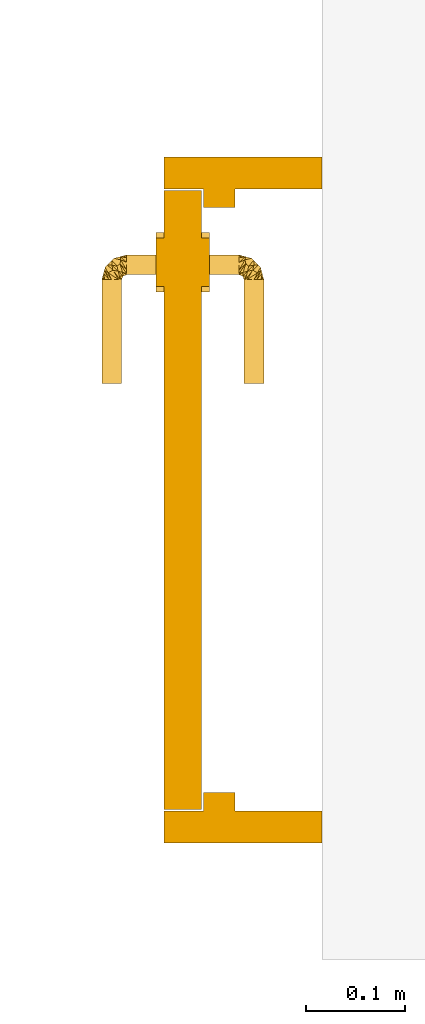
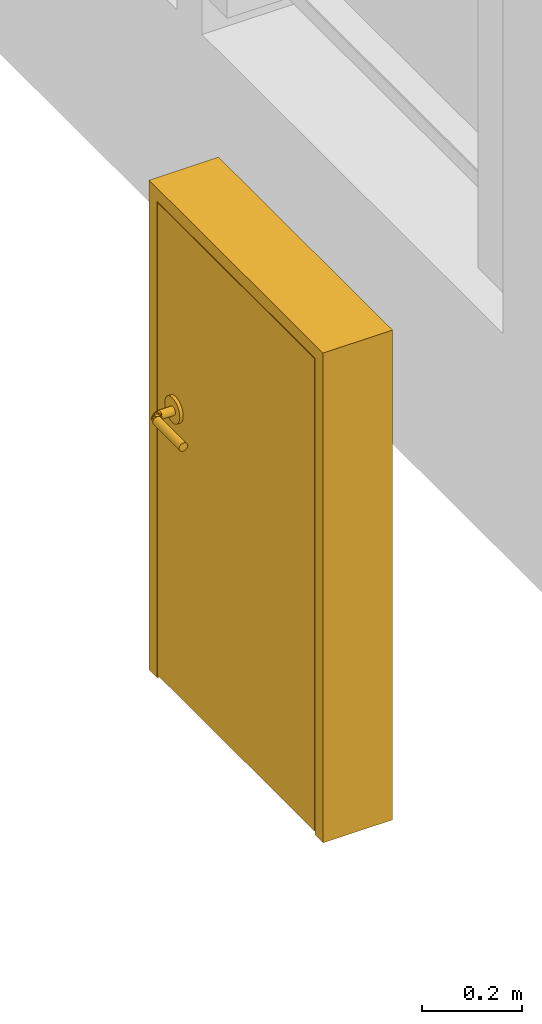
# One storey, part 32 of 33: 1 door.
"""IFC2X3 building model written with IfcOpenShell, lengths in millimetres."""

from ifc_helpers import new_model, entity, si_unit, converted_unit, derived_unit, direction, frame, origin, place, context, subcontext, project, spatial, faceted_brep, source, transform, mapped, material, material_list, type_object, type_shapes, element, save


model = new_model("IFC2X3")

# Units and contexts
model_context = context("Model", 3, precision=0.01, world=origin(), true_north=direction((6.12303176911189e-17, 1.0)))
body_context = subcontext(model_context, "Body", "Model", "MODEL_VIEW")
ifc_project = project(units=[si_unit("LENGTHUNIT", "METRE", prefix="MILLI"), si_unit("AREAUNIT", "SQUARE_METRE"), si_unit("VOLUMEUNIT", "CUBIC_METRE"), converted_unit("PLANEANGLEUNIT", "DEGREE", entity("IfcRatioMeasure", 0.0174532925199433), si_unit("PLANEANGLEUNIT", "RADIAN"), dimensions=[0, 0, 0, 0, 0, 0, 0]), si_unit("MASSUNIT", "GRAM", prefix="KILO"), derived_unit("MASSDENSITYUNIT", [(si_unit("MASSUNIT", "GRAM", prefix="KILO"), 1), (si_unit("LENGTHUNIT", "METRE"), -3)]), si_unit("TIMEUNIT", "SECOND"), si_unit("FREQUENCYUNIT", "HERTZ"), si_unit("THERMODYNAMICTEMPERATUREUNIT", "DEGREE_CELSIUS"), derived_unit("THERMALTRANSMITTANCEUNIT", [(si_unit("MASSUNIT", "GRAM", prefix="KILO"), 1), (si_unit("THERMODYNAMICTEMPERATUREUNIT", "KELVIN"), -1), (si_unit("TIMEUNIT", "SECOND"), -3)]), derived_unit("VOLUMETRICFLOWRATEUNIT", [(si_unit("LENGTHUNIT", "METRE"), 3), (si_unit("TIMEUNIT", "SECOND"), -1)]), si_unit("ELECTRICCURRENTUNIT", "AMPERE"), si_unit("ELECTRICVOLTAGEUNIT", "VOLT"), si_unit("POWERUNIT", "WATT"), si_unit("FORCEUNIT", "NEWTON", prefix="KILO"), si_unit("ILLUMINANCEUNIT", "LUX"), si_unit("LUMINOUSFLUXUNIT", "LUMEN"), si_unit("LUMINOUSINTENSITYUNIT", "CANDELA"), derived_unit("USERDEFINED", [(si_unit("MASSUNIT", "GRAM", prefix="KILO"), -1), (si_unit("LENGTHUNIT", "METRE"), -2), (si_unit("TIMEUNIT", "SECOND"), 3), (si_unit("LUMINOUSFLUXUNIT", "LUMEN"), 1)]), derived_unit("LINEARVELOCITYUNIT", [(si_unit("LENGTHUNIT", "METRE"), 1), (si_unit("TIMEUNIT", "SECOND"), -1)]), si_unit("PRESSUREUNIT", "PASCAL"), derived_unit("USERDEFINED", [(si_unit("LENGTHUNIT", "METRE"), -2), (si_unit("MASSUNIT", "GRAM", prefix="KILO"), 1), (si_unit("TIMEUNIT", "SECOND"), -2)])], contexts=[model_context])

# Site, building, storey
site_placement = place(None, origin())
site = spatial("IfcSite", under=ifc_project, at=site_placement, Name="Default", CompositionType="ELEMENT")
building_placement = place(site_placement, origin())
building = spatial("IfcBuilding", under=site, at=building_placement, CompositionType="ELEMENT")
storey_placement = place(building_placement, frame((0.0, 0.0, 4000.0)))
storey = spatial("IfcBuildingStorey", under=building, at=storey_placement, Name="2. KORRUS", CompositionType="ELEMENT", Elevation=4000.0)

# Door
ifc_material_1 = material(Name="Door - Handle")
ifc_material_2 = material(Name="Door - Panel")
ifc_material_3 = material(Name="Door - Frame/Mullion (1)")
ifc_material_list_1 = material_list([ifc_material_1, ifc_material_2, ifc_material_3])
ifc_material_list_2 = material_list([ifc_material_1, ifc_material_2, ifc_material_3])
door_style = type_object("IfcDoorStyle", Name="LU7-1_710x1200mm", ConstructionType="NOTDEFINED", OperationType="SINGLE_SWING_LEFT", ParameterTakesPrecedence=False, Sizeable=False, material=ifc_material_list_2)
shared_shape = source(origin(), body_context, "Body", "Brep", [
    faceted_brep([(600.071067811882, 114.0, 692.928932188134), (598.0, 114.0, 691.339745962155), (595.588190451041, 114.0, 690.340741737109), (593.0, 114.0, 690.0), (590.411809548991, 114.0, 690.340741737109), (588.0, 114.0, 691.339745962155), (585.928932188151, 114.0, 692.928932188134), (584.339745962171, 114.0, 695.0), (583.340741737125, 114.0, 697.411809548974), (583.0, 114.0, 700.0), (583.340741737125, 114.0, 702.588190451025), (584.339745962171, 114.0, 705.0), (585.92893218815, 114.0, 707.071067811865), (588.0, 114.0, 708.660254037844), (590.411809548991, 114.0, 709.65925826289), (593.0, 114.0, 710.0), (595.588190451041, 114.0, 709.65925826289), (598.0, 114.0, 708.660254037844), (600.071067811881, 114.0, 707.071067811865), (601.66025403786, 114.0, 705.0), (602.659258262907, 114.0, 702.588190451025), (603.0, 114.0, 700.0), (602.659258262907, 114.0, 697.411809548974), (601.66025403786, 114.0, 695.0), (602.659258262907, 84.0, 697.411809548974), (603.0, 84.0, 700.0), (601.66025403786, 84.0, 695.0), (600.071067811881, 84.0, 692.928932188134), (598.0, 84.0, 691.339745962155), (595.588190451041, 84.0, 690.340741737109), (593.0, 84.0, 690.0), (588.0, 84.0, 691.339745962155), (590.411809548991, 84.0, 690.340741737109), (585.928932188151, 84.0, 692.928932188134), (584.339745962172, 84.0, 695.0), (583.340741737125, 84.0, 697.411809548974), (583.0, 84.0, 700.0), (583.340741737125, 84.0, 702.588190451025), (584.339745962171, 84.0, 705.0), (585.92893218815, 84.0, 707.071067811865), (588.0, 84.0, 708.660254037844), (590.411809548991, 84.0, 709.65925826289), (593.0, 84.0, 710.0), (598.0, 84.0, 708.660254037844), (595.588190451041, 84.0, 709.65925826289), (600.071067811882, 84.0, 707.071067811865), (601.66025403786, 84.0, 705.0), (602.659258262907, 84.0, 702.588190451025), (602.573545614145, 82.408450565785, 700.0), (598.028337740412, 78.0398644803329, 691.923303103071), (601.294182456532, 77.6338022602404, 700.0), (594.035086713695, 77.416124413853, 690.276218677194), (591.752914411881, 74.4623288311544, 690.151922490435), (585.376369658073, 79.9815423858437, 692.487405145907), (600.472408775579, 74.5669011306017, 700.0), (599.650635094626, 71.500000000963, 700.0), (602.147091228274, 80.8169011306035, 700.0), (592.920509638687, 69.32823813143, 691.944762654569), (587.53767189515, 70.2470849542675, 690.151922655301), (586.501282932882, 75.4987174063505, 690.4535208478), (590.500000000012, 62.3493649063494, 700.0), (585.010617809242, 65.32962368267, 691.307206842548), (578.0, 79.0, 700.0), (581.535533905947, 80.4644660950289, 700.0), (582.018457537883, 76.6236306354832, 692.487405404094), (578.0, 78.6592582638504, 697.411809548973), (578.0, 77.6602540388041, 695.0), (587.433098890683, 61.5275912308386, 700.0), (584.366197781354, 60.7058175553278, 700.0), (578.0, 66.4118095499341, 690.340741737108), (578.0, 76.0710678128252, 692.928932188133), (578.0, 74.0, 691.339745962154), (597.362976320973, 69.2123412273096, 700.0), (592.787658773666, 64.6370236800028, 700.0), (578.0, 64.0, 691.339745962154), (578.0, 69.0, 690.0), (581.183098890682, 59.8529087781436, 700.0), (578.0, 61.9289321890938, 692.928932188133), (578.0, 59.3407417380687, 697.411809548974), (579.591549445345, 59.4264543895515, 700.0), (578.0, 59.0, 700.0), (595.075317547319, 66.9246824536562, 700.0), (578.0, 60.3397459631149, 695.0), (578.0, 71.5881904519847, 690.340741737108), (598.028337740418, 78.0398644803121, 708.076696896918), (591.752914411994, 74.4623288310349, 709.848077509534), (585.376369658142, 79.9815423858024, 707.51259485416), (586.501282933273, 75.4987174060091, 709.546479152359), (582.018457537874, 76.6236306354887, 707.512594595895), (594.035086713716, 77.4161244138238, 709.723781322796), (578.0, 77.6602540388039, 705.0), (587.53767189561, 70.2470849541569, 709.848077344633), (592.671762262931, 69.0794906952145, 708.055237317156), (578.0, 78.6592582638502, 702.588190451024), (585.010617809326, 65.3296236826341, 708.692793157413), (578.0, 69.0, 710.0), (578.0, 66.4118095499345, 709.659258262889), (578.0, 76.071067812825, 707.071067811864), (578.0, 61.9289321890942, 707.071067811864), (578.0, 71.5881904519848, 709.659258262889), (578.0, 74.0, 708.660254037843), (578.0, 60.3397459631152, 705.0), (578.0, 64.0, 708.660254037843), (578.0, 59.3407417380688, 702.588190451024), (473.0, 66.4118095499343, 690.340741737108), (473.0, 64.0, 691.339745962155), (473.0, 61.928932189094, 692.928932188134), (473.0, 60.3397459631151, 695.0), (473.0, 59.3407417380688, 697.411809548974), (473.0, 59.0, 700.0), (473.0, 59.3407417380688, 702.588190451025), (473.0, 60.3397459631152, 705.0), (473.0, 61.9289321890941, 707.071067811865), (473.0, 64.0, 708.660254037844), (473.0, 66.4118095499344, 709.65925826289), (473.0, 69.0, 710.0), (473.0, 71.5881904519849, 709.65925826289), (473.0, 74.0, 708.660254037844), (473.0, 76.0710678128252, 707.071067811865), (473.0, 77.6602540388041, 705.0), (473.0, 78.6592582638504, 702.588190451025), (473.0, 79.0, 700.0), (473.0, 78.6592582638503, 697.411809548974), (473.0, 77.660254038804, 695.0), (473.0, 76.0710678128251, 692.928932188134), (473.0, 74.0, 691.339745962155), (473.0, 71.5881904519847, 690.340741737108), (473.0, 69.0, 690.0)], [[[0, 1, 2, 3, 4, 5, 6, 7, 8, 9, 10, 11, 12, 13, 14, 15, 16, 17, 18, 19, 20, 21, 22, 23]], [[24, 22, 21, 25]], [[26, 23, 22, 24]], [[0, 27, 28, 1]], [[26, 27, 0, 23]], [[1, 28, 29, 2]], [[2, 29, 30, 3]], [[31, 5, 4, 32]], [[33, 6, 5, 31]], [[7, 34, 35, 8]], [[33, 34, 7, 6]], [[8, 35, 36, 9]], [[4, 3, 30, 32]], [[37, 10, 9, 36]], [[38, 11, 10, 37]], [[12, 39, 40, 13]], [[38, 39, 12, 11]], [[13, 40, 41, 14]], [[14, 41, 42, 15]], [[43, 17, 16, 44]], [[45, 18, 17, 43]], [[19, 46, 47, 20]], [[45, 46, 19, 18]], [[20, 47, 25, 21]], [[16, 15, 42, 44]], [[24, 48, 26]], [[49, 29, 50]], [[51, 52, 53]], [[50, 54, 55, 49]], [[50, 28, 27]], [[26, 56, 27]], [[28, 50, 29]], [[55, 51, 49]], [[49, 31, 32]], [[57, 58, 59]], [[60, 61, 58]], [[49, 30, 29]], [[49, 32, 30]], [[62, 63, 64]], [[31, 49, 51]], [[65, 64, 66]], [[67, 68, 69]], [[24, 25, 48]], [[51, 53, 34]], [[51, 33, 31]], [[52, 57, 59]], [[70, 61, 71]], [[63, 53, 59]], [[52, 72, 57]], [[57, 73, 58]], [[68, 74, 69]], [[53, 52, 59]], [[67, 75, 61]], [[69, 75, 67]], [[76, 77, 68]], [[60, 58, 73]], [[68, 77, 74]], [[61, 60, 67]], [[78, 79, 80]], [[58, 64, 59]], [[51, 72, 52]], [[50, 27, 56]], [[53, 36, 35]], [[81, 73, 57, 72]], [[66, 64, 58]], [[76, 82, 77]], [[65, 62, 64]], [[82, 79, 78]], [[61, 70, 58]], [[48, 56, 26]], [[70, 66, 58]], [[76, 79, 82]], [[71, 61, 83]], [[75, 83, 61]], [[34, 33, 51]], [[63, 59, 64]], [[35, 34, 53]], [[72, 51, 55]], [[63, 36, 53]], [[84, 55, 54, 50]], [[85, 86, 87]], [[63, 62, 88]], [[89, 39, 38]], [[85, 89, 86]], [[90, 91, 88]], [[38, 86, 89]], [[92, 85, 87]], [[37, 86, 38]], [[63, 88, 87]], [[92, 87, 91]], [[88, 62, 93]], [[48, 25, 47]], [[60, 91, 94]], [[67, 60, 94]], [[45, 50, 56]], [[42, 84, 44]], [[91, 60, 73]], [[50, 45, 43]], [[43, 44, 50]], [[89, 72, 55]], [[95, 96, 67]], [[44, 84, 50]], [[87, 88, 91]], [[63, 87, 86]], [[90, 88, 93]], [[91, 90, 97]], [[68, 98, 76]], [[73, 92, 91]], [[37, 36, 86]], [[56, 46, 45]], [[99, 94, 100]], [[56, 48, 46]], [[79, 76, 101]], [[94, 97, 100]], [[46, 48, 47]], [[99, 95, 94]], [[92, 72, 85]], [[81, 72, 92, 73]], [[102, 98, 68]], [[68, 96, 102]], [[40, 84, 41]], [[67, 96, 68]], [[101, 103, 79]], [[89, 85, 72]], [[95, 67, 94]], [[84, 42, 41]], [[97, 94, 91]], [[101, 76, 98]], [[103, 80, 79]], [[55, 84, 89]], [[40, 39, 89]], [[36, 63, 86]], [[40, 89, 84]], [[104, 105, 106, 107, 108, 109, 110, 111, 112, 113, 114, 115, 116, 117, 118, 119, 120, 121, 122, 123, 124, 125, 126, 127]], [[108, 78, 80, 109]], [[107, 82, 78, 108]], [[105, 74, 77, 106]], [[106, 77, 82, 107]], [[104, 69, 74, 105]], [[69, 104, 127, 75]], [[125, 124, 70, 71]], [[126, 125, 71, 83]], [[122, 121, 62, 65]], [[123, 122, 65, 66]], [[124, 123, 66, 70]], [[83, 75, 127, 126]], [[120, 93, 62, 121]], [[119, 90, 93, 120]], [[97, 118, 117, 100]], [[119, 118, 97, 90]], [[100, 117, 116, 99]], [[99, 116, 115, 95]], [[113, 102, 96, 114]], [[112, 98, 102, 113]], [[101, 111, 110, 103]], [[98, 112, 111, 101]], [[103, 110, 109, 80]], [[96, 95, 115, 114]]]),
    faceted_brep([(587.735428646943, 114.0, 728.977774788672), (580.500000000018, 114.0, 725.980762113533), (574.286796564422, 114.0, 721.213203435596), (569.519237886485, 114.0, 715.0), (566.522225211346, 114.0, 707.764571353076), (565.500000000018, 114.0, 700.0), (566.522225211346, 114.0, 692.235428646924), (569.519237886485, 114.0, 685.0), (574.286796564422, 114.0, 678.786796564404), (580.500000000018, 114.0, 674.019237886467), (587.735428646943, 114.0, 671.022225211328), (595.500000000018, 114.0, 670.0), (603.264571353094, 114.0, 671.022225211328), (610.500000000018, 114.0, 674.019237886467), (616.713203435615, 114.0, 678.786796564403), (621.480762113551, 114.0, 685.0), (624.47777478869, 114.0, 692.235428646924), (625.500000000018, 114.0, 700.0), (624.47777478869, 114.0, 707.764571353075), (621.480762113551, 114.0, 715.0), (616.713203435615, 114.0, 721.213203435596), (610.500000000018, 114.0, 725.980762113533), (603.264571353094, 114.0, 728.977774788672), (595.500000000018, 114.0, 730.0), (595.500000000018, 122.0, 670.0), (587.735428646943, 122.0, 671.022225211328), (580.500000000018, 122.0, 674.019237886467), (574.286796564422, 122.0, 678.786796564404), (569.519237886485, 122.0, 685.0), (566.522225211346, 122.0, 692.235428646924), (565.500000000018, 122.0, 700.0), (566.522225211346, 122.0, 707.764571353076), (569.519237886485, 122.0, 715.0), (574.286796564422, 122.0, 721.213203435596), (580.500000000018, 122.0, 725.980762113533), (587.735428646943, 122.0, 728.977774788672), (595.500000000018, 122.0, 730.0), (603.264571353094, 122.0, 728.977774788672), (610.500000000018, 122.0, 725.980762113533), (616.713203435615, 122.0, 721.213203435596), (621.480762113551, 122.0, 715.0), (624.47777478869, 122.0, 707.764571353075), (625.500000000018, 122.0, 700.0), (624.47777478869, 122.0, 692.235428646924), (621.480762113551, 122.0, 685.0), (616.713203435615, 122.0, 678.786796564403), (610.500000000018, 122.0, 674.019237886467), (603.264571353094, 122.0, 671.022225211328)], [[[0, 1, 2, 3, 4, 5, 6, 7, 8, 9, 10, 11, 12, 13, 14, 15, 16, 17, 18, 19, 20, 21, 22, 23]], [[24, 25, 26, 27, 28, 29, 30, 31, 32, 33, 34, 35, 36, 37, 38, 39, 40, 41, 42, 43, 44, 45, 46, 47]], [[41, 18, 17, 42]], [[40, 19, 18, 41]], [[21, 20, 39, 38]], [[40, 39, 20, 19]], [[22, 21, 38, 37]], [[23, 22, 37, 36]], [[35, 0, 23, 36]], [[34, 1, 0, 35]], [[3, 2, 33, 32]], [[34, 33, 2, 1]], [[4, 3, 32, 31]], [[5, 4, 31, 30]], [[29, 6, 5, 30]], [[28, 7, 6, 29]], [[9, 8, 27, 26]], [[28, 27, 8, 7]], [[10, 9, 26, 25]], [[11, 10, 25, 24]], [[47, 12, 11, 24]], [[46, 13, 12, 47]], [[15, 14, 45, 44]], [[46, 45, 14, 13]], [[16, 15, 44, 43]], [[17, 16, 43, 42]]]),
    faceted_brep([(595.588190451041, 168.0, 690.340741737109), (598.0, 168.0, 691.339745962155), (600.071067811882, 168.0, 692.928932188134), (601.66025403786, 168.0, 695.0), (602.659258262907, 168.0, 697.411809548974), (603.0, 168.0, 700.0), (602.659258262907, 168.0, 702.588190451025), (601.66025403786, 168.0, 705.0), (600.071067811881, 168.0, 707.071067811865), (598.0, 168.0, 708.660254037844), (595.588190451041, 168.0, 709.65925826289), (593.0, 168.0, 710.0), (590.411809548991, 168.0, 709.65925826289), (588.0, 168.0, 708.660254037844), (585.92893218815, 168.0, 707.071067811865), (584.339745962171, 168.0, 705.0), (583.340741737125, 168.0, 702.588190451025), (583.0, 168.0, 700.0), (583.340741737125, 168.0, 697.411809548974), (584.339745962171, 168.0, 695.0), (585.928932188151, 168.0, 692.928932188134), (588.0, 168.0, 691.339745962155), (590.411809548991, 168.0, 690.340741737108), (593.0, 168.0, 690.0), (603.0, 198.0, 700.0), (602.659258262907, 198.0, 697.411809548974), (601.66025403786, 198.0, 695.0), (598.0, 198.0, 691.339745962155), (600.071067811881, 198.0, 692.928932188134), (595.588190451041, 198.0, 690.340741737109), (593.0, 198.0, 690.0), (590.411809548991, 198.0, 690.340741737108), (588.0, 198.0, 691.339745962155), (585.928932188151, 198.0, 692.928932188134), (583.340741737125, 198.0, 697.411809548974), (584.339745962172, 198.0, 695.0), (583.0, 198.0, 700.0), (583.340741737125, 198.0, 702.588190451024), (584.339745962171, 198.0, 705.0), (588.0, 198.0, 708.660254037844), (585.92893218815, 198.0, 707.071067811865), (590.411809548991, 198.0, 709.65925826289), (593.0, 198.0, 710.0), (595.588190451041, 198.0, 709.65925826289), (598.0, 198.0, 708.660254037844), (600.071067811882, 198.0, 707.071067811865), (602.659258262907, 198.0, 702.588190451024), (601.66025403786, 198.0, 705.0), (602.573545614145, 199.59154943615, 700.0), (601.294182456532, 204.366197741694, 700.0), (598.028337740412, 203.960135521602, 691.923303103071), (585.376369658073, 202.018457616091, 692.487405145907), (591.752914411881, 207.53767117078, 690.151922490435), (594.035086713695, 204.583875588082, 690.276218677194), (599.650635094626, 210.500000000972, 700.0), (600.472408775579, 207.433098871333, 700.0), (602.147091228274, 201.183098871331, 700.0), (586.501282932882, 206.501282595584, 690.4535208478), (587.53767189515, 211.752915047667, 690.151922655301), (592.920509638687, 212.671761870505, 691.944762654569), (585.010617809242, 216.670376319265, 691.307206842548), (590.500000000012, 219.650635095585, 700.0), (582.018457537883, 205.376369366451, 692.487405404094), (581.535533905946, 201.535533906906, 700.0), (578.0, 203.0, 700.0), (578.0, 204.33974596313, 695.0), (578.0, 203.340741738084, 697.411809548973), (578.0, 215.588190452, 690.340741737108), (584.366197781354, 221.294182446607, 700.0), (587.433098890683, 220.472408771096, 700.0), (578.0, 222.659258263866, 697.411809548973), (579.591549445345, 222.573545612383, 700.0), (578.0, 221.66025403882, 695.0), (578.0, 208.0, 691.339745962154), (578.0, 205.928932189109, 692.928932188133), (597.362976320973, 212.787658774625, 700.0), (592.787658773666, 217.362976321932, 700.0), (578.0, 218.0, 691.339745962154), (578.0, 213.0, 690.0), (578.0, 220.071067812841, 692.928932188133), (581.183098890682, 222.147091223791, 700.0), (578.0, 223.0, 700.0), (595.075317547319, 215.075317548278, 700.0), (578.0, 210.41180954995, 690.340741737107), (598.028337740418, 203.960135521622, 708.076696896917), (586.501282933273, 206.501282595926, 709.546479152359), (585.376369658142, 202.018457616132, 707.51259485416), (591.752914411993, 207.5376711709, 709.848077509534), (582.018457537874, 205.376369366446, 707.512594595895), (594.035086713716, 204.583875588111, 709.723781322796), (587.53767189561, 211.752915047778, 709.848077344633), (578.0, 204.339745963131, 705.0), (592.671762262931, 212.92050930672, 708.055237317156), (578.0, 203.340741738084, 702.588190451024), (585.010617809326, 216.6703763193, 708.692793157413), (578.0, 215.588190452, 709.659258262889), (578.0, 213.0, 710.0), (578.0, 205.92893218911, 707.071067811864), (578.0, 220.07106781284, 707.071067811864), (578.0, 208.0, 708.660254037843), (578.0, 210.41180954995, 709.659258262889), (578.0, 221.660254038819, 705.0), (578.0, 222.659258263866, 702.588190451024), (578.0, 218.0, 708.660254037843), (473.0, 205.92893218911, 692.928932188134), (473.0, 204.339745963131, 695.0), (473.0, 203.340741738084, 697.411809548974), (473.0, 203.0, 700.0), (473.0, 203.340741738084, 702.588190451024), (473.0, 204.339745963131, 705.0), (473.0, 205.928932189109, 707.071067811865), (473.0, 208.0, 708.660254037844), (473.0, 210.41180954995, 709.65925826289), (473.0, 213.0, 710.0), (473.0, 215.588190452, 709.65925826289), (473.0, 218.0, 708.660254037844), (473.0, 220.07106781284, 707.071067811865), (473.0, 221.660254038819, 705.0), (473.0, 222.659258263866, 702.588190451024), (473.0, 223.0, 700.0), (473.0, 222.659258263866, 697.411809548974), (473.0, 221.66025403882, 695.0), (473.0, 220.071067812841, 692.928932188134), (473.0, 218.0, 691.339745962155), (473.0, 215.588190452, 690.340741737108), (473.0, 213.0, 690.0), (473.0, 210.41180954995, 690.340741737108), (473.0, 208.0, 691.339745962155)], [[[0, 1, 2, 3, 4, 5, 6, 7, 8, 9, 10, 11, 12, 13, 14, 15, 16, 17, 18, 19, 20, 21, 22, 23]], [[24, 5, 4, 25]], [[25, 4, 3, 26]], [[27, 28, 2, 1]], [[3, 2, 28, 26]], [[29, 27, 1, 0]], [[23, 30, 29, 0]], [[31, 22, 21, 32]], [[32, 21, 20, 33]], [[34, 35, 19, 18]], [[20, 19, 35, 33]], [[36, 34, 18, 17]], [[31, 30, 23, 22]], [[36, 17, 16, 37]], [[37, 16, 15, 38]], [[39, 40, 14, 13]], [[15, 14, 40, 38]], [[41, 39, 13, 12]], [[11, 42, 41, 12]], [[43, 10, 9, 44]], [[44, 9, 8, 45]], [[46, 47, 7, 6]], [[8, 7, 47, 45]], [[24, 46, 6, 5]], [[43, 42, 11, 10]], [[26, 48, 25]], [[49, 29, 50]], [[51, 52, 53]], [[50, 54, 55, 49]], [[28, 27, 49]], [[28, 56, 26]], [[29, 49, 27]], [[50, 53, 54]], [[31, 32, 50]], [[57, 58, 59]], [[58, 60, 61]], [[29, 30, 50]], [[30, 31, 50]], [[62, 63, 64]], [[53, 50, 32]], [[65, 62, 66]], [[67, 68, 69]], [[70, 71, 72]], [[35, 51, 53]], [[32, 33, 53]], [[57, 59, 52]], [[73, 60, 74]], [[57, 51, 63]], [[59, 75, 52]], [[58, 76, 59]], [[67, 77, 68]], [[57, 52, 51]], [[60, 78, 69]], [[69, 78, 67]], [[68, 79, 80]], [[76, 58, 61]], [[77, 79, 68]], [[69, 61, 60]], [[81, 71, 70]], [[57, 62, 58]], [[52, 75, 53]], [[79, 72, 80]], [[34, 36, 51]], [[59, 76, 82, 75]], [[58, 62, 65]], [[56, 28, 49]], [[62, 64, 66]], [[48, 24, 25]], [[58, 74, 60]], [[72, 71, 80]], [[58, 65, 74]], [[26, 56, 48]], [[83, 60, 73]], [[60, 83, 78]], [[53, 33, 35]], [[62, 57, 63]], [[51, 35, 34]], [[54, 53, 75]], [[51, 36, 63]], [[49, 55, 54, 84]], [[85, 86, 87]], [[88, 64, 63]], [[38, 40, 89]], [[86, 89, 87]], [[88, 90, 91]], [[89, 86, 38]], [[85, 87, 92]], [[38, 86, 37]], [[85, 88, 63]], [[90, 85, 92]], [[93, 64, 88]], [[46, 24, 48]], [[94, 90, 61]], [[94, 61, 69]], [[56, 49, 45]], [[43, 84, 42]], [[76, 61, 90]], [[44, 45, 49]], [[49, 43, 44]], [[54, 75, 89]], [[69, 95, 96]], [[49, 84, 43]], [[90, 88, 85]], [[86, 85, 63]], [[93, 88, 91]], [[97, 91, 90]], [[45, 47, 56]], [[90, 92, 76]], [[86, 36, 37]], [[80, 98, 68]], [[99, 94, 100]], [[101, 80, 71]], [[47, 48, 56]], [[99, 97, 94]], [[71, 81, 102]], [[94, 96, 100]], [[87, 75, 92]], [[92, 75, 82, 76]], [[68, 98, 103]], [[103, 95, 68]], [[41, 84, 39]], [[68, 95, 69]], [[71, 102, 101]], [[75, 87, 89]], [[94, 69, 96]], [[41, 42, 84]], [[90, 94, 97]], [[98, 80, 101]], [[46, 48, 47]], [[89, 84, 54]], [[89, 40, 39]], [[86, 63, 36]], [[84, 89, 39]], [[104, 105, 106, 107, 108, 109, 110, 111, 112, 113, 114, 115, 116, 117, 118, 119, 120, 121, 122, 123, 124, 125, 126, 127]], [[119, 81, 70, 120]], [[120, 70, 72, 121]], [[122, 79, 77, 123]], [[121, 72, 79, 122]], [[123, 77, 67, 124]], [[78, 125, 124, 67]], [[73, 74, 104, 127]], [[83, 73, 127, 126]], [[66, 64, 107, 106]], [[65, 66, 106, 105]], [[74, 65, 105, 104]], [[126, 125, 78, 83]], [[107, 64, 93, 108]], [[108, 93, 91, 109]], [[111, 110, 97, 99]], [[91, 97, 110, 109]], [[112, 111, 99, 100]], [[96, 113, 112, 100]], [[114, 95, 103, 115]], [[115, 103, 98, 116]], [[118, 117, 101, 102]], [[117, 116, 98, 101]], [[119, 118, 102, 81]], [[114, 113, 96, 95]]]),
    faceted_brep([(574.286796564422, 168.0, 721.213203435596), (580.500000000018, 168.0, 725.980762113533), (587.735428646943, 168.0, 728.977774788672), (595.500000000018, 168.0, 730.0), (603.264571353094, 168.0, 728.977774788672), (610.500000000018, 168.0, 725.980762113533), (616.713203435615, 168.0, 721.213203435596), (621.480762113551, 168.0, 715.0), (624.47777478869, 168.0, 707.764571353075), (625.500000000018, 168.0, 700.0), (624.47777478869, 168.0, 692.235428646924), (621.480762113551, 168.0, 685.0), (616.713203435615, 168.0, 678.786796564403), (610.500000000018, 168.0, 674.019237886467), (603.264571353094, 168.0, 671.022225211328), (595.500000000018, 168.0, 670.0), (587.735428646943, 168.0, 671.022225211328), (580.500000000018, 168.0, 674.019237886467), (574.286796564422, 168.0, 678.786796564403), (569.519237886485, 168.0, 685.0), (566.522225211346, 168.0, 692.235428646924), (565.500000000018, 168.0, 700.0), (566.522225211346, 168.0, 707.764571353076), (569.519237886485, 168.0, 715.0), (580.500000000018, 160.0, 674.019237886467), (587.735428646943, 160.0, 671.022225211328), (595.500000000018, 160.0, 670.0), (603.264571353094, 160.0, 671.022225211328), (610.500000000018, 160.0, 674.019237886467), (616.713203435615, 160.0, 678.786796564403), (621.480762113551, 160.0, 685.0), (624.47777478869, 160.0, 692.235428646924), (625.500000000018, 160.0, 700.0), (624.47777478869, 160.0, 707.764571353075), (621.480762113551, 160.0, 715.0), (616.713203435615, 160.0, 721.213203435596), (610.500000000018, 160.0, 725.980762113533), (603.264571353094, 160.0, 728.977774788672), (595.500000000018, 160.0, 730.0), (587.735428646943, 160.0, 728.977774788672), (580.500000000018, 160.0, 725.980762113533), (574.286796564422, 160.0, 721.213203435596), (569.519237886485, 160.0, 715.0), (566.522225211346, 160.0, 707.764571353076), (565.500000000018, 160.0, 700.0), (566.522225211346, 160.0, 692.235428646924), (569.519237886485, 160.0, 685.0), (574.286796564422, 160.0, 678.786796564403)], [[[0, 1, 2, 3, 4, 5, 6, 7, 8, 9, 10, 11, 12, 13, 14, 15, 16, 17, 18, 19, 20, 21, 22, 23]], [[24, 25, 26, 27, 28, 29, 30, 31, 32, 33, 34, 35, 36, 37, 38, 39, 40, 41, 42, 43, 44, 45, 46, 47]], [[32, 9, 8, 33]], [[33, 8, 7, 34]], [[36, 35, 6, 5]], [[6, 35, 34, 7]], [[37, 36, 5, 4]], [[37, 4, 3, 38]], [[38, 3, 2, 39]], [[39, 2, 1, 40]], [[42, 41, 0, 23]], [[0, 41, 40, 1]], [[43, 42, 23, 22]], [[43, 22, 21, 44]], [[44, 21, 20, 45]], [[45, 20, 19, 46]], [[24, 47, 18, 17]], [[18, 47, 46, 19]], [[25, 24, 17, 16]], [[25, 16, 15, 26]], [[26, 15, 14, 27]], [[27, 14, 13, 28]], [[30, 29, 12, 11]], [[12, 29, 28, 13]], [[31, 30, 11, 10]], [[31, 10, 9, 32]]]),
    faceted_brep([(668.0, 122.0, 1158.0), (42.0, 122.0, 1158.0), (42.0, 122.0, 8.0), (668.0, 122.0, 8.0), (668.0, 160.0, 1158.0), (668.0, 160.0, 8.0), (42.0, 160.0, 8.0), (42.0, 160.0, 1158.0)], [[[0, 1, 2, 3]], [[4, 5, 6, 7]], [[3, 5, 4, 0]], [[2, 6, 5, 3]], [[1, 7, 6, 2]], [[0, 4, 7, 1]]]),
    faceted_brep([(670.0, 120.0, 0.0), (670.0, 88.0, 0.0), (651.0, 88.0, 0.0), (651.0, 120.0, 0.0), (651.0, 120.0, 1141.0), (59.0, 120.0, 1141.0), (59.0, 120.0, 0.0), (40.0, 120.0, 0.0), (40.0, 120.0, 1160.0), (670.0, 120.0, 1160.0), (651.0, 88.0, 1141.0), (670.0, 88.0, 1160.0), (40.0, 88.0, 1160.0), (40.0, 88.0, 0.0), (59.0, 88.0, 0.0), (59.0, 88.0, 1141.0)], [[[0, 1, 2, 3]], [[3, 4, 5, 6, 7, 8, 9, 0]], [[2, 10, 4, 3]], [[1, 11, 12, 13, 14, 15, 10, 2]], [[0, 9, 11, 1]], [[8, 7, 13, 12]], [[7, 6, 14, 13]], [[15, 14, 6, 5]], [[10, 15, 5, 4]], [[9, 8, 12, 11]]]),
    faceted_brep([(670.0, 160.0, 0.0), (702.0, 160.0, 0.0), (702.0, 0.0, 0.0), (670.0, 0.0, 0.0), (670.0, 0.0, 1160.0), (670.0, 160.0, 1160.0), (702.0, 0.0, 1192.0), (702.0, 160.0, 1192.0), (40.0, 160.0, 0.0), (40.0, 0.0, 0.0), (8.0, 0.0, 0.0), (8.0, 160.0, 0.0), (40.0, 160.0, 1160.0), (8.0, 160.0, 1192.0), (8.0, 0.0, 1192.0), (40.0, 0.0, 1160.0)], [[[0, 1, 2, 3]], [[3, 4, 5, 0]], [[2, 6, 4, 3]], [[1, 7, 6, 2]], [[0, 5, 7, 1]], [[8, 9, 10, 11]], [[12, 8, 11, 13]], [[13, 11, 10, 14]], [[14, 10, 9, 15]], [[15, 9, 8, 12]], [[4, 15, 12, 5]], [[6, 14, 15, 4]], [[7, 13, 14, 6]], [[5, 12, 13, 7]]]),
])
type_shapes(door_style, [shared_shape])
door_placement = place(storey_placement, frame((38500.074537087, 14700.0498096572, 350.0), z_axis=(0.0, 0.0, 1.0), x_axis=(0.0, 1.0, 0.0)))
element("IfcDoor", 1, at=door_placement, inside=storey, type_object=door_style, material=ifc_material_list_1, Name="uks-1poolne:LU7-1_710x1200mm", ObjectType="LU7-1_710x1200mm", OverallHeight=1200.00000000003, OverallWidth=710.000000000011, context=body_context, shape_type="MappedRepresentation", body=[
    mapped(shared_shape, transform((0.0, 0.0, 0.0), scale=1.0)),
])

save(model, "model.ifc")
